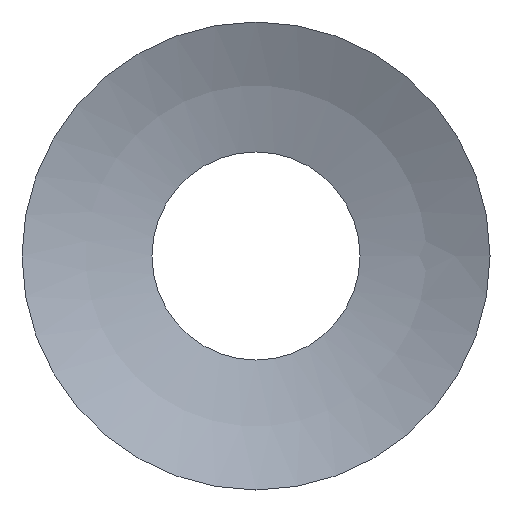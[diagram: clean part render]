
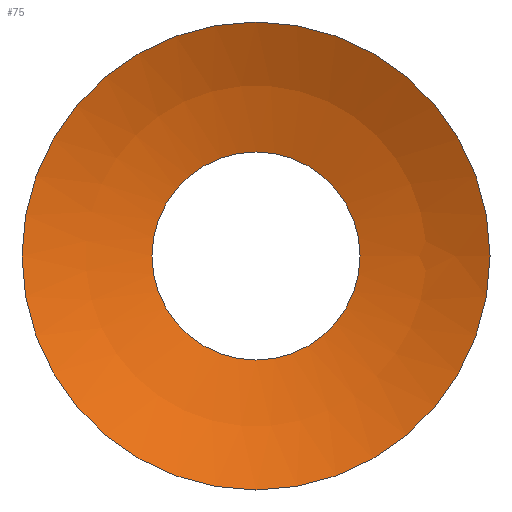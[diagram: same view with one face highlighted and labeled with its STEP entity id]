
A CAD part, front view. The second image highlights one B-rep face of the part: STEP entity #75.
In plain terms, the highlighted spherical face has radius 10.203 mm.
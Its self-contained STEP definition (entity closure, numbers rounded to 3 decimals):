
#75=ADVANCED_FACE('',(#97,#98),#99,.F.);
#97=FACE_OUTER_BOUND('',#160,.T.);
#98=FACE_OUTER_BOUND('',#161,.T.);
#99=SPHERICAL_SURFACE('',#162,10.203);
#160=EDGE_LOOP('',(#223));
#161=EDGE_LOOP('',(#224));
#162=AXIS2_PLACEMENT_3D('',#225,#226,#227);
#223=ORIENTED_EDGE('',*,*,#328,.T.);
#224=ORIENTED_EDGE('',*,*,#329,.F.);
#225=CARTESIAN_POINT('',(0.,-9.157,0.));
#226=DIRECTION('',(0.0,-1.0,0.));
#227=DIRECTION('',(1.0,0.0,0.0));
#328=EDGE_CURVE('',#349,#349,#350,.T.);
#329=EDGE_CURVE('',#351,#351,#352,.T.);
#349=VERTEX_POINT('',#391);
#350=CIRCLE('',#392,4.5);
#351=VERTEX_POINT('',#393);
#352=CIRCLE('',#394,2.);
#391=CARTESIAN_POINT('',(4.5,0.,0.0));
#392=AXIS2_PLACEMENT_3D('',#433,#434,#435);
#393=CARTESIAN_POINT('',(2.,0.848,0.0));
#394=AXIS2_PLACEMENT_3D('',#436,#437,#438);
#433=CARTESIAN_POINT('',(0.0,0.,0.0));
#434=DIRECTION('',(0.0,-1.0,0.));
#435=DIRECTION('',(0.0,0.,-1.0));
#436=CARTESIAN_POINT('',(0.0,0.848,0.0));
#437=DIRECTION('',(0.0,-1.0,0.));
#438=DIRECTION('',(0.0,0.,-1.0));
